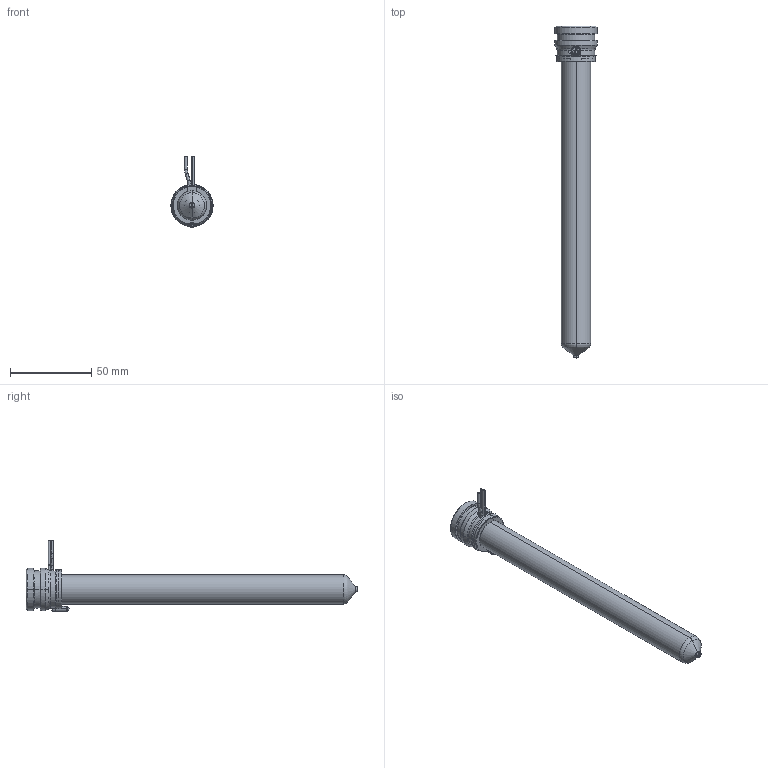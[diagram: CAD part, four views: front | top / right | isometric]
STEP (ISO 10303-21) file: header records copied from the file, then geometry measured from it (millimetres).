
FILE_DESCRIPTION((''),'2;1');
FILE_NAME('MPN-08-24-VP3-186-A','2026-02-05T12:02:34',('UPTIO'),('Thermoplay S.p.A.'),'CREO PARAMETRIC BY PTC INC, 2023494','CREO PARAMETRIC BY PTC INC, 2023494','');
FILE_SCHEMA(('CONFIG_CONTROL_DESIGN','SHAPE_APPEARANCE_LAYERS_GROUPS'));
Length unit declared in the file: millimetre
Products named in the file (1): MPN-08-24-VP3-186-A
Bounding box: 26 x 204.1 x 43.5 mm (x, y, z)
Volume: 37998.9 mm3; surface area: 50035.3 mm2
Topology: 2 solids, 3 shells, 587 faces, 1560 edges, 971 vertices
Faces by surface type: cylinder 184, plane 143, bspline 108, torus 70, cone 68, sphere 8, extrusion 6
Entity records: 31954 total; most frequent: CARTESIAN_POINT 14720, ORIENTED_EDGE 3104, DIRECTION 2714, EDGE_CURVE 1552, AXIS2_PLACEMENT_3D 1061, VERTEX_POINT 971, EDGE_LOOP 615, VECTOR 592
